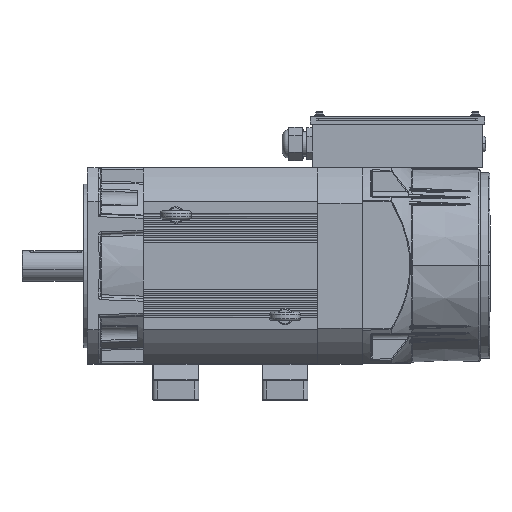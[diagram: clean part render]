
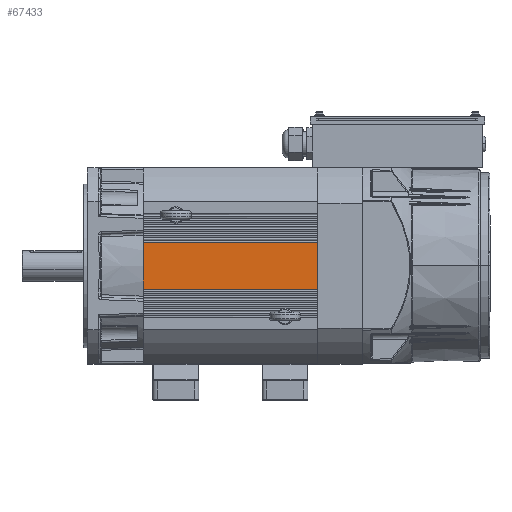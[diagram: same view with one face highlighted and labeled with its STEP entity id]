
A CAD part, top view. The second image highlights one B-rep face of the part: STEP entity #67433.
In plain terms, the highlighted planar face has unit normal (0, 0, 1) as drawn and (0, 1, 0) by its records, which use the part's own axes.
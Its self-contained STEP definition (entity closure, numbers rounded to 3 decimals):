
#2520 = VECTOR ( 'NONE', #102555, 1000. ) ;
#3155 = LINE ( 'NONE', #89762, #2520 ) ;
#7405 = VECTOR ( 'NONE', #43723, 1000. ) ;
#7552 = EDGE_CURVE ( 'NONE', #18665, #30035, #66389, .T. ) ;
#14823 = CARTESIAN_POINT ( 'NONE',  ( 58.79, 90., -80. ) ) ;
#18665 = VERTEX_POINT ( 'NONE', #121590 ) ;
#22786 = VECTOR ( 'NONE', #24262, 1000. ) ;
#24262 = DIRECTION ( 'NONE',  ( 0., 0., 1. ) ) ;
#29594 = DIRECTION ( 'NONE',  ( 0., 0., 1. ) ) ;
#30035 = VERTEX_POINT ( 'NONE', #36363 ) ;
#32300 = ORIENTED_EDGE ( 'NONE', *, *, #128962, .T. ) ;
#33046 = AXIS2_PLACEMENT_3D ( 'NONE', #76662, #98442, #67882 ) ;
#33569 = CARTESIAN_POINT ( 'NONE',  ( 21.5, 90., 80. ) ) ;
#36363 = CARTESIAN_POINT ( 'NONE',  ( -21.5, 90., -80. ) ) ;
#43723 = DIRECTION ( 'NONE',  ( -1., 0., 0. ) ) ;
#62159 = EDGE_CURVE ( 'NONE', #18665, #97867, #75679, .T. ) ;
#64430 = VERTEX_POINT ( 'NONE', #108269 ) ;
#65612 = CARTESIAN_POINT ( 'NONE',  ( -21.5, 90., 80. ) ) ;
#66389 = LINE ( 'NONE', #14823, #7405 ) ;
#67433 = ADVANCED_FACE ( 'NONE', ( #117044 ), #127756, .F. ) ;
#67882 = DIRECTION ( 'NONE',  ( 1., 0., 0. ) ) ;
#69142 = ORIENTED_EDGE ( 'NONE', *, *, #7552, .T. ) ;
#70983 = EDGE_LOOP ( 'NONE', ( #71463, #69142, #32300, #116390 ) ) ;
#71463 = ORIENTED_EDGE ( 'NONE', *, *, #62159, .F. ) ;
#75679 = LINE ( 'NONE', #100546, #116950 ) ;
#76662 = CARTESIAN_POINT ( 'NONE',  ( 58.79, 90., 80. ) ) ;
#89762 = CARTESIAN_POINT ( 'NONE',  ( 58.79, 90., 80. ) ) ;
#97867 = VERTEX_POINT ( 'NONE', #33569 ) ;
#98442 = DIRECTION ( 'NONE',  ( 0., -1., 0. ) ) ;
#100546 = CARTESIAN_POINT ( 'NONE',  ( 21.5, 90., 80. ) ) ;
#102555 = DIRECTION ( 'NONE',  ( -1., 0., 0. ) ) ;
#108269 = CARTESIAN_POINT ( 'NONE',  ( -21.5, 90., 80. ) ) ;
#116390 = ORIENTED_EDGE ( 'NONE', *, *, #116738, .F. ) ;
#116738 = EDGE_CURVE ( 'NONE', #97867, #64430, #3155, .T. ) ;
#116950 = VECTOR ( 'NONE', #29594, 1000. ) ;
#117044 = FACE_OUTER_BOUND ( 'NONE', #70983, .T. ) ;
#121590 = CARTESIAN_POINT ( 'NONE',  ( 21.5, 90., -80. ) ) ;
#124432 = LINE ( 'NONE', #65612, #22786 ) ;
#127756 = PLANE ( 'NONE',  #33046 ) ;
#128962 = EDGE_CURVE ( 'NONE', #30035, #64430, #124432, .T. ) ;
